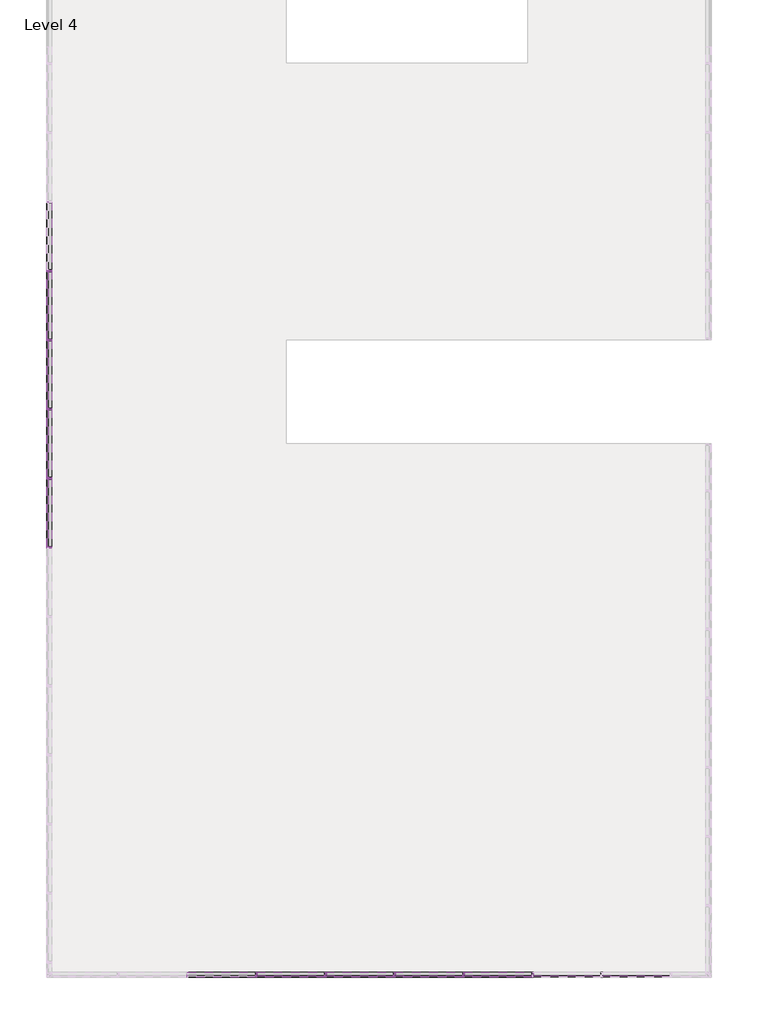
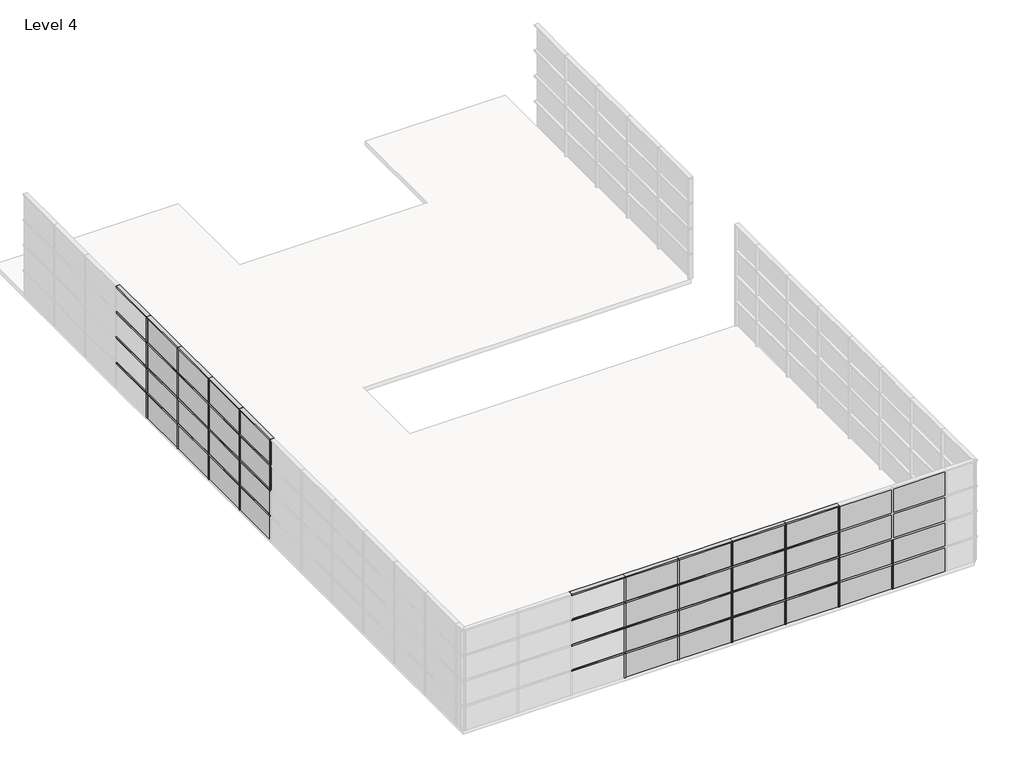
# One storey, part 2 of 5: 80 members, 40 plates.
"""IFC4 building model written with IfcOpenShell, lengths in millimetres."""

from ifc_helpers import new_model, si_unit, origin, place, context, project, spatial, transform, mapped, element, save
from components import rectangular_mullion_50_x_150mm_a053b0ca, rectangular_mullion_50_x_150mm_3a148f0f, system_panel_glazed_08de6f5f

model = new_model("IFC4")

# Units and contexts
model_context = context("Model", 3, world=origin())
ifc_project = project(units=[si_unit("LENGTHUNIT", "METRE", prefix="MILLI")], contexts=[model_context])

# Site, building, storey
site = spatial("IfcSite", under=ifc_project)
building = spatial("IfcBuilding", under=site)
storey = spatial("IfcBuildingStorey", under=building, Name="Level 4", Elevation=12000.0)

# Members
placement = place(None, origin())
rectangular_mullion_50_x_150mm_shape = rectangular_mullion_50_x_150mm_a053b0ca(model_context)
element("IfcMember", 1, ObjectType="Rectangular Mullion : 50 x 150mm", at=placement, inside=storey, context=model_context, shape_type="MappedRepresentation", body=[
    mapped(rectangular_mullion_50_x_150mm_shape, transform((412.826594, -21988.7417365, 12025.0), x_axis=(1.0, 0.0, 0.0), y_axis=(0.0, -1.0, 0.0), z_axis=(0.0, 0.0, -1.0))),
])
element("IfcMember", 2, ObjectType="Rectangular Mullion : 50 x 150mm", at=placement, inside=storey, context=model_context, shape_type="MappedRepresentation", body=[
    mapped(rectangular_mullion_50_x_150mm_shape, transform((412.826594, -21988.7417365, 13025.0), x_axis=(1.0, 0.0, 0.0), y_axis=(0.0, -1.0, 0.0), z_axis=(0.0, 0.0, -1.0))),
])
element("IfcMember", 3, ObjectType="Rectangular Mullion : 50 x 150mm", at=placement, inside=storey, context=model_context, shape_type="MappedRepresentation", body=[
    mapped(rectangular_mullion_50_x_150mm_shape, transform((412.826594, -21988.7417365, 14025.0), x_axis=(1.0, 0.0, 0.0), y_axis=(0.0, -1.0, 0.0), z_axis=(0.0, 0.0, -1.0))),
])
element("IfcMember", 4, ObjectType="Rectangular Mullion : 50 x 150mm", at=placement, inside=storey, context=model_context, shape_type="MappedRepresentation", body=[
    mapped(rectangular_mullion_50_x_150mm_shape, transform((412.826594, -21988.7417365, 15025.0), x_axis=(1.0, 0.0, 0.0), y_axis=(0.0, -1.0, 0.0), z_axis=(0.0, 0.0, -0.9999999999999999))),
])
element("IfcMember", 5, ObjectType="Rectangular Mullion : 50 x 150mm", at=placement, inside=storey, context=model_context, shape_type="MappedRepresentation", body=[
    mapped(rectangular_mullion_50_x_150mm_shape, transform((2412.826594, -21988.7417365, 12025.0), x_axis=(1.0, 0.0, 0.0), y_axis=(0.0, -1.0, 0.0), z_axis=(0.0, 0.0, -1.0))),
])
element("IfcMember", 6, ObjectType="Rectangular Mullion : 50 x 150mm", at=placement, inside=storey, context=model_context, shape_type="MappedRepresentation", body=[
    mapped(rectangular_mullion_50_x_150mm_shape, transform((2412.826594, -21988.7417365, 13025.0), x_axis=(1.0, 0.0, 0.0), y_axis=(0.0, -1.0, 0.0), z_axis=(0.0, 0.0, -0.9999999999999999))),
])
element("IfcMember", 7, ObjectType="Rectangular Mullion : 50 x 150mm", at=placement, inside=storey, context=model_context, shape_type="MappedRepresentation", body=[
    mapped(rectangular_mullion_50_x_150mm_shape, transform((2412.826594, -21988.7417365, 14025.0), x_axis=(1.0, 0.0, 0.0), y_axis=(0.0, -1.0, 0.0), z_axis=(0.0, 0.0, -1.0))),
])
element("IfcMember", 8, ObjectType="Rectangular Mullion : 50 x 150mm", at=placement, inside=storey, context=model_context, shape_type="MappedRepresentation", body=[
    mapped(rectangular_mullion_50_x_150mm_shape, transform((2412.826594, -21988.7417365, 15025.0), x_axis=(1.0, 0.0, 0.0), y_axis=(0.0, -1.0, 0.0), z_axis=(0.0, 0.0, -1.0))),
])
element("IfcMember", 9, ObjectType="Rectangular Mullion : 50 x 150mm", at=placement, inside=storey, context=model_context, shape_type="MappedRepresentation", body=[
    mapped(rectangular_mullion_50_x_150mm_shape, transform((4412.826594, -21988.7417365, 12025.0), x_axis=(1.0, 0.0, 0.0), y_axis=(0.0, -1.0, 0.0), z_axis=(0.0, 0.0, -1.0))),
])
element("IfcMember", 10, ObjectType="Rectangular Mullion : 50 x 150mm", at=placement, inside=storey, context=model_context, shape_type="MappedRepresentation", body=[
    mapped(rectangular_mullion_50_x_150mm_shape, transform((4412.826594, -21988.7417365, 13025.0), x_axis=(1.0, 0.0, 0.0), y_axis=(0.0, -1.0, 0.0), z_axis=(0.0, 0.0, -0.9999999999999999))),
])
element("IfcMember", 11, ObjectType="Rectangular Mullion : 50 x 150mm", at=placement, inside=storey, context=model_context, shape_type="MappedRepresentation", body=[
    mapped(rectangular_mullion_50_x_150mm_shape, transform((4412.826594, -21988.7417365, 14025.0), x_axis=(1.0, 0.0, 0.0), y_axis=(0.0, -1.0, 0.0), z_axis=(0.0, 0.0, -0.9999999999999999))),
])
element("IfcMember", 12, ObjectType="Rectangular Mullion : 50 x 150mm", at=placement, inside=storey, context=model_context, shape_type="MappedRepresentation", body=[
    mapped(rectangular_mullion_50_x_150mm_shape, transform((4412.826594, -21988.7417365, 15025.0), x_axis=(1.0, 0.0, 0.0), y_axis=(0.0, -1.0, 0.0), z_axis=(0.0, 0.0, -1.0))),
])
element("IfcMember", 13, ObjectType="Rectangular Mullion : 50 x 150mm", at=placement, inside=storey, context=model_context, shape_type="MappedRepresentation", body=[
    mapped(rectangular_mullion_50_x_150mm_shape, transform((6412.826594, -21988.7417365, 12025.0), x_axis=(1.0, 0.0, 0.0), y_axis=(0.0, -1.0, 0.0), z_axis=(0.0, 0.0, -1.0))),
])
element("IfcMember", 14, ObjectType="Rectangular Mullion : 50 x 150mm", at=placement, inside=storey, context=model_context, shape_type="MappedRepresentation", body=[
    mapped(rectangular_mullion_50_x_150mm_shape, transform((6412.826594, -21988.7417365, 13025.0), x_axis=(1.0, 0.0, 0.0), y_axis=(0.0, -1.0, 0.0), z_axis=(0.0, 0.0, -1.0))),
])
element("IfcMember", 15, ObjectType="Rectangular Mullion : 50 x 150mm", at=placement, inside=storey, context=model_context, shape_type="MappedRepresentation", body=[
    mapped(rectangular_mullion_50_x_150mm_shape, transform((6412.826594, -21988.7417365, 14025.0), x_axis=(1.0, 0.0, 0.0), y_axis=(0.0, -1.0, 0.0), z_axis=(0.0, 0.0, -0.9999999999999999))),
])
element("IfcMember", 16, ObjectType="Rectangular Mullion : 50 x 150mm", at=placement, inside=storey, context=model_context, shape_type="MappedRepresentation", body=[
    mapped(rectangular_mullion_50_x_150mm_shape, transform((6412.826594, -21988.7417365, 15025.0), x_axis=(1.0, 0.0, 0.0), y_axis=(0.0, -1.0, 0.0), z_axis=(0.0, 0.0, -1.0))),
])
element("IfcMember", 17, ObjectType="Rectangular Mullion : 50 x 150mm", at=placement, inside=storey, context=model_context, shape_type="MappedRepresentation", body=[
    mapped(rectangular_mullion_50_x_150mm_shape, transform((8412.826594, -21988.7417365, 12025.0), x_axis=(1.0, 0.0, 0.0), y_axis=(0.0, -1.0, 0.0), z_axis=(0.0, 0.0, -1.0))),
])
element("IfcMember", 18, ObjectType="Rectangular Mullion : 50 x 150mm", at=placement, inside=storey, context=model_context, shape_type="MappedRepresentation", body=[
    mapped(rectangular_mullion_50_x_150mm_shape, transform((8412.826594, -21988.7417365, 13025.0), x_axis=(1.0, 0.0, 0.0), y_axis=(0.0, -1.0, 0.0), z_axis=(0.0, 0.0, -1.0))),
])
element("IfcMember", 19, ObjectType="Rectangular Mullion : 50 x 150mm", at=placement, inside=storey, context=model_context, shape_type="MappedRepresentation", body=[
    mapped(rectangular_mullion_50_x_150mm_shape, transform((8412.826594, -21988.7417365, 14025.0), x_axis=(1.0, 0.0, 0.0), y_axis=(0.0, -1.0, 0.0), z_axis=(0.0, 0.0, -0.9999999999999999))),
])
element("IfcMember", 20, ObjectType="Rectangular Mullion : 50 x 150mm", at=placement, inside=storey, context=model_context, shape_type="MappedRepresentation", body=[
    mapped(rectangular_mullion_50_x_150mm_shape, transform((8412.826594, -21988.7417365, 15025.0), x_axis=(1.0, 0.0, 0.0), y_axis=(0.0, -1.0, 0.0), z_axis=(0.0, 0.0, -1.0))),
])
element("IfcMember", 21, ObjectType="Rectangular Mullion : 50 x 150mm", at=placement, inside=storey, context=model_context, shape_type="MappedRepresentation", body=[
    mapped(rectangular_mullion_50_x_150mm_shape, transform((10412.826594, -21988.7417365, 12025.0), x_axis=(1.0, 0.0, 0.0), y_axis=(0.0, -1.0, 0.0), z_axis=(0.0, 0.0, -1.0))),
])
element("IfcMember", 22, ObjectType="Rectangular Mullion : 50 x 150mm", at=placement, inside=storey, context=model_context, shape_type="MappedRepresentation", body=[
    mapped(rectangular_mullion_50_x_150mm_shape, transform((10412.826594, -21988.7417365, 13025.0), x_axis=(1.0, 0.0, 0.0), y_axis=(0.0, -1.0, 0.0), z_axis=(0.0, 0.0, -1.0))),
])
element("IfcMember", 23, ObjectType="Rectangular Mullion : 50 x 150mm", at=placement, inside=storey, context=model_context, shape_type="MappedRepresentation", body=[
    mapped(rectangular_mullion_50_x_150mm_shape, transform((-5587.173406, -3624.0160434, 12025.0), x_axis=(0.0, -1.0, 0.0), y_axis=(-1.0, 0.0, 0.0), z_axis=(0.0, 0.0, -1.0))),
])
element("IfcMember", 24, ObjectType="Rectangular Mullion : 50 x 150mm", at=placement, inside=storey, context=model_context, shape_type="MappedRepresentation", body=[
    mapped(rectangular_mullion_50_x_150mm_shape, transform((-5587.173406, -3624.0160434, 13025.0), x_axis=(0.0, -1.0, 0.0), y_axis=(-1.0, 0.0, 0.0), z_axis=(0.0, 0.0, -0.9999999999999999))),
])
element("IfcMember", 25, ObjectType="Rectangular Mullion : 50 x 150mm", at=placement, inside=storey, context=model_context, shape_type="MappedRepresentation", body=[
    mapped(rectangular_mullion_50_x_150mm_shape, transform((-5587.173406, -3624.0160434, 14025.0), x_axis=(0.0, -1.0, 0.0), y_axis=(-1.0, 0.0, 0.0), z_axis=(0.0, 0.0, -1.0))),
])
element("IfcMember", 26, ObjectType="Rectangular Mullion : 50 x 150mm", at=placement, inside=storey, context=model_context, shape_type="MappedRepresentation", body=[
    mapped(rectangular_mullion_50_x_150mm_shape, transform((-5587.173406, -3624.0160434, 15025.0), x_axis=(0.0, -1.0, 0.0), y_axis=(-1.0, 0.0, 0.0), z_axis=(0.0, 0.0, -1.0))),
])
element("IfcMember", 27, ObjectType="Rectangular Mullion : 50 x 150mm", at=placement, inside=storey, context=model_context, shape_type="MappedRepresentation", body=[
    mapped(rectangular_mullion_50_x_150mm_shape, transform((-5587.173406, -5624.0160434, 12025.0), x_axis=(0.0, -1.0, 0.0), y_axis=(-1.0, 0.0, 0.0), z_axis=(0.0, 0.0, -1.0))),
])
element("IfcMember", 28, ObjectType="Rectangular Mullion : 50 x 150mm", at=placement, inside=storey, context=model_context, shape_type="MappedRepresentation", body=[
    mapped(rectangular_mullion_50_x_150mm_shape, transform((-5587.173406, -5624.0160434, 13025.0), x_axis=(0.0, -1.0, 0.0), y_axis=(-1.0, 0.0, 0.0), z_axis=(0.0, 0.0, -0.9999999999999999))),
])
element("IfcMember", 29, ObjectType="Rectangular Mullion : 50 x 150mm", at=placement, inside=storey, context=model_context, shape_type="MappedRepresentation", body=[
    mapped(rectangular_mullion_50_x_150mm_shape, transform((-5587.173406, -5624.0160434, 14025.0), x_axis=(0.0, -1.0, 0.0), y_axis=(-1.0, 0.0, 0.0), z_axis=(0.0, 0.0, -1.0))),
])
element("IfcMember", 30, ObjectType="Rectangular Mullion : 50 x 150mm", at=placement, inside=storey, context=model_context, shape_type="MappedRepresentation", body=[
    mapped(rectangular_mullion_50_x_150mm_shape, transform((-5587.173406, -5624.0160434, 15025.0), x_axis=(0.0, -1.0, 0.0), y_axis=(-1.0, 0.0, 0.0), z_axis=(0.0, 0.0, -1.0))),
])
element("IfcMember", 31, ObjectType="Rectangular Mullion : 50 x 150mm", at=placement, inside=storey, context=model_context, shape_type="MappedRepresentation", body=[
    mapped(rectangular_mullion_50_x_150mm_shape, transform((-5587.173406, -7624.0160434, 12025.0), x_axis=(0.0, -1.0, 0.0), y_axis=(-1.0, 0.0, 0.0), z_axis=(0.0, 0.0, -1.0))),
])
element("IfcMember", 32, ObjectType="Rectangular Mullion : 50 x 150mm", at=placement, inside=storey, context=model_context, shape_type="MappedRepresentation", body=[
    mapped(rectangular_mullion_50_x_150mm_shape, transform((-5587.173406, -7624.0160434, 13025.0), x_axis=(0.0, -1.0, 0.0), y_axis=(-1.0, 0.0, 0.0), z_axis=(0.0, 0.0, -1.0))),
])
element("IfcMember", 33, ObjectType="Rectangular Mullion : 50 x 150mm", at=placement, inside=storey, context=model_context, shape_type="MappedRepresentation", body=[
    mapped(rectangular_mullion_50_x_150mm_shape, transform((-5587.173406, -7624.0160434, 14025.0), x_axis=(0.0, -1.0, 0.0), y_axis=(-1.0, 0.0, 0.0), z_axis=(0.0, 0.0, -1.0))),
])
element("IfcMember", 34, ObjectType="Rectangular Mullion : 50 x 150mm", at=placement, inside=storey, context=model_context, shape_type="MappedRepresentation", body=[
    mapped(rectangular_mullion_50_x_150mm_shape, transform((-5587.173406, -7624.0160434, 15025.0), x_axis=(0.0, -1.0, 0.0), y_axis=(-1.0, 0.0, 0.0), z_axis=(0.0, 0.0, -1.0))),
])
element("IfcMember", 35, ObjectType="Rectangular Mullion : 50 x 150mm", at=placement, inside=storey, context=model_context, shape_type="MappedRepresentation", body=[
    mapped(rectangular_mullion_50_x_150mm_shape, transform((-5587.173406, -1624.0160434, 12025.0), x_axis=(0.0, -1.0, 0.0), y_axis=(-1.0, 0.0, 0.0), z_axis=(0.0, 0.0, -1.0))),
])
element("IfcMember", 36, ObjectType="Rectangular Mullion : 50 x 150mm", at=placement, inside=storey, context=model_context, shape_type="MappedRepresentation", body=[
    mapped(rectangular_mullion_50_x_150mm_shape, transform((-5587.173406, -1624.0160434, 13025.0), x_axis=(0.0, -1.0, 0.0), y_axis=(-1.0, 0.0, 0.0), z_axis=(0.0, 0.0, -0.9999999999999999))),
])
element("IfcMember", 37, ObjectType="Rectangular Mullion : 50 x 150mm", at=placement, inside=storey, context=model_context, shape_type="MappedRepresentation", body=[
    mapped(rectangular_mullion_50_x_150mm_shape, transform((-5587.173406, -1624.0160434, 14025.0), x_axis=(0.0, -1.0, 0.0), y_axis=(-1.0, 0.0, 0.0), z_axis=(0.0, 0.0, -1.0))),
])
element("IfcMember", 38, ObjectType="Rectangular Mullion : 50 x 150mm", at=placement, inside=storey, context=model_context, shape_type="MappedRepresentation", body=[
    mapped(rectangular_mullion_50_x_150mm_shape, transform((-5587.173406, -1624.0160434, 15025.0), x_axis=(0.0, -1.0, 0.0), y_axis=(-1.0, 0.0, 0.0), z_axis=(0.0, 0.0, -1.0))),
])
element("IfcMember", 39, ObjectType="Rectangular Mullion : 50 x 150mm", at=placement, inside=storey, context=model_context, shape_type="MappedRepresentation", body=[
    mapped(rectangular_mullion_50_x_150mm_shape, transform((-5587.173406, -9624.0160434, 14025.0), x_axis=(0.0, -1.0, 0.0), y_axis=(-1.0, 0.0, 0.0), z_axis=(0.0, 0.0, -1.0))),
])
element("IfcMember", 40, ObjectType="Rectangular Mullion : 50 x 150mm", at=placement, inside=storey, context=model_context, shape_type="MappedRepresentation", body=[
    mapped(rectangular_mullion_50_x_150mm_shape, transform((-5587.173406, -9624.0160434, 15025.0), x_axis=(0.0, -1.0, 0.0), y_axis=(-1.0, 0.0, 0.0), z_axis=(0.0, 0.0, -1.0))),
])
rectangular_mullion_50_x_150mm_2_shape = rectangular_mullion_50_x_150mm_3a148f0f(model_context)
element("IfcMember", 41, ObjectType="Rectangular Mullion : 50 x 150mm", at=placement, inside=storey, context=model_context, shape_type="MappedRepresentation", body=[
    mapped(rectangular_mullion_50_x_150mm_2_shape, transform((412.826594, -21988.7417365, 13000.0), x_axis=(0.0, 0.0, 1.0), y_axis=(0.0, -1.0, 0.0), z_axis=(1.0, 0.0, 0.0))),
])
element("IfcMember", 42, ObjectType="Rectangular Mullion : 50 x 150mm", at=placement, inside=storey, context=model_context, shape_type="MappedRepresentation", body=[
    mapped(rectangular_mullion_50_x_150mm_2_shape, transform((2412.826594, -21988.7417365, 13000.0), x_axis=(0.0, 0.0, 1.0), y_axis=(0.0, -1.0, 0.0), z_axis=(1.0, 0.0, 0.0))),
])
element("IfcMember", 43, ObjectType="Rectangular Mullion : 50 x 150mm", at=placement, inside=storey, context=model_context, shape_type="MappedRepresentation", body=[
    mapped(rectangular_mullion_50_x_150mm_2_shape, transform((4412.826594, -21988.7417365, 13000.0), x_axis=(0.0, 0.0, 1.0), y_axis=(0.0, -1.0, 0.0), z_axis=(0.9999999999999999, 0.0, 0.0))),
])
element("IfcMember", 44, ObjectType="Rectangular Mullion : 50 x 150mm", at=placement, inside=storey, context=model_context, shape_type="MappedRepresentation", body=[
    mapped(rectangular_mullion_50_x_150mm_2_shape, transform((6412.826594, -21988.7417365, 13000.0), x_axis=(0.0, 0.0, 1.0), y_axis=(0.0, -1.0, 0.0), z_axis=(1.0, 0.0, 0.0))),
])
element("IfcMember", 45, ObjectType="Rectangular Mullion : 50 x 150mm", at=placement, inside=storey, context=model_context, shape_type="MappedRepresentation", body=[
    mapped(rectangular_mullion_50_x_150mm_2_shape, transform((8412.826594, -21988.7417365, 13000.0), x_axis=(0.0, 0.0, 1.0), y_axis=(0.0, -1.0, 0.0), z_axis=(1.0, 0.0, 0.0))),
])
element("IfcMember", 46, ObjectType="Rectangular Mullion : 50 x 150mm", at=placement, inside=storey, context=model_context, shape_type="MappedRepresentation", body=[
    mapped(rectangular_mullion_50_x_150mm_2_shape, transform((412.826594, -21988.7417365, 14000.0), x_axis=(0.0, 0.0, 1.0), y_axis=(0.0, -1.0, 0.0), z_axis=(1.0, 0.0, 0.0))),
])
element("IfcMember", 47, ObjectType="Rectangular Mullion : 50 x 150mm", at=placement, inside=storey, context=model_context, shape_type="MappedRepresentation", body=[
    mapped(rectangular_mullion_50_x_150mm_2_shape, transform((2412.826594, -21988.7417365, 14000.0), x_axis=(0.0, 0.0, 1.0), y_axis=(0.0, -1.0, 0.0), z_axis=(1.0, 0.0, 0.0))),
])
element("IfcMember", 48, ObjectType="Rectangular Mullion : 50 x 150mm", at=placement, inside=storey, context=model_context, shape_type="MappedRepresentation", body=[
    mapped(rectangular_mullion_50_x_150mm_2_shape, transform((4412.826594, -21988.7417365, 14000.0), x_axis=(0.0, 0.0, 1.0), y_axis=(0.0, -1.0, 0.0), z_axis=(1.0, 0.0, 0.0))),
])
element("IfcMember", 49, ObjectType="Rectangular Mullion : 50 x 150mm", at=placement, inside=storey, context=model_context, shape_type="MappedRepresentation", body=[
    mapped(rectangular_mullion_50_x_150mm_2_shape, transform((6412.826594, -21988.7417365, 14000.0), x_axis=(0.0, 0.0, 1.0), y_axis=(0.0, -1.0, 0.0), z_axis=(1.0, 0.0, 0.0))),
])
element("IfcMember", 50, ObjectType="Rectangular Mullion : 50 x 150mm", at=placement, inside=storey, context=model_context, shape_type="MappedRepresentation", body=[
    mapped(rectangular_mullion_50_x_150mm_2_shape, transform((8412.826594, -21988.7417365, 14000.0), x_axis=(0.0, 0.0, 1.0), y_axis=(0.0, -1.0, 0.0), z_axis=(1.0, 0.0, 0.0))),
])
element("IfcMember", 51, ObjectType="Rectangular Mullion : 50 x 150mm", at=placement, inside=storey, context=model_context, shape_type="MappedRepresentation", body=[
    mapped(rectangular_mullion_50_x_150mm_2_shape, transform((412.826594, -21988.7417365, 15000.0), x_axis=(0.0, 0.0, 1.0), y_axis=(0.0, -1.0, 0.0), z_axis=(1.0, 0.0, 0.0))),
])
element("IfcMember", 52, ObjectType="Rectangular Mullion : 50 x 150mm", at=placement, inside=storey, context=model_context, shape_type="MappedRepresentation", body=[
    mapped(rectangular_mullion_50_x_150mm_2_shape, transform((2412.826594, -21988.7417365, 15000.0), x_axis=(0.0, 0.0, 1.0), y_axis=(0.0, -1.0, 0.0), z_axis=(1.0, 0.0, 0.0))),
])
element("IfcMember", 53, ObjectType="Rectangular Mullion : 50 x 150mm", at=placement, inside=storey, context=model_context, shape_type="MappedRepresentation", body=[
    mapped(rectangular_mullion_50_x_150mm_2_shape, transform((4412.826594, -21988.7417365, 15000.0), x_axis=(0.0, 0.0, 1.0), y_axis=(0.0, -1.0, 0.0), z_axis=(1.0, 0.0, 0.0))),
])
element("IfcMember", 54, ObjectType="Rectangular Mullion : 50 x 150mm", at=placement, inside=storey, context=model_context, shape_type="MappedRepresentation", body=[
    mapped(rectangular_mullion_50_x_150mm_2_shape, transform((6412.826594, -21988.7417365, 15000.0), x_axis=(0.0, 0.0, 1.0), y_axis=(0.0, -1.0, 0.0), z_axis=(1.0, 0.0, 0.0))),
])
element("IfcMember", 55, ObjectType="Rectangular Mullion : 50 x 150mm", at=placement, inside=storey, context=model_context, shape_type="MappedRepresentation", body=[
    mapped(rectangular_mullion_50_x_150mm_2_shape, transform((8412.826594, -21988.7417365, 15000.0), x_axis=(0.0, 0.0, 1.0), y_axis=(0.0, -1.0, 0.0), z_axis=(1.0, 0.0, 0.0))),
])
element("IfcMember", 56, ObjectType="Rectangular Mullion : 50 x 150mm", at=placement, inside=storey, context=model_context, shape_type="MappedRepresentation", body=[
    mapped(rectangular_mullion_50_x_150mm_2_shape, transform((412.826594, -21988.7417365, 16000.0), x_axis=(0.0, 0.0, 1.0), y_axis=(0.0, -1.0, 0.0), z_axis=(1.0, 0.0, 0.0))),
])
element("IfcMember", 57, ObjectType="Rectangular Mullion : 50 x 150mm", at=placement, inside=storey, context=model_context, shape_type="MappedRepresentation", body=[
    mapped(rectangular_mullion_50_x_150mm_2_shape, transform((2412.826594, -21988.7417365, 16000.0), x_axis=(0.0, 0.0, 1.0), y_axis=(0.0, -1.0, 0.0), z_axis=(1.0, 0.0, 0.0))),
])
element("IfcMember", 58, ObjectType="Rectangular Mullion : 50 x 150mm", at=placement, inside=storey, context=model_context, shape_type="MappedRepresentation", body=[
    mapped(rectangular_mullion_50_x_150mm_2_shape, transform((4412.826594, -21988.7417365, 16000.0), x_axis=(0.0, 0.0, 1.0), y_axis=(0.0, -1.0, 0.0), z_axis=(1.0, 0.0, 0.0))),
])
element("IfcMember", 59, ObjectType="Rectangular Mullion : 50 x 150mm", at=placement, inside=storey, context=model_context, shape_type="MappedRepresentation", body=[
    mapped(rectangular_mullion_50_x_150mm_2_shape, transform((6412.826594, -21988.7417365, 16000.0), x_axis=(0.0, 0.0, 1.0), y_axis=(0.0, -1.0, 0.0), z_axis=(1.0, 0.0, 0.0))),
])
element("IfcMember", 60, ObjectType="Rectangular Mullion : 50 x 150mm", at=placement, inside=storey, context=model_context, shape_type="MappedRepresentation", body=[
    mapped(rectangular_mullion_50_x_150mm_2_shape, transform((8412.826594, -21988.7417365, 16000.0), x_axis=(0.0, 0.0, 1.0), y_axis=(0.0, -1.0, 0.0), z_axis=(1.0, 0.0, 0.0))),
])
element("IfcMember", 61, ObjectType="Rectangular Mullion : 50 x 150mm", at=placement, inside=storey, context=model_context, shape_type="MappedRepresentation", body=[
    mapped(rectangular_mullion_50_x_150mm_2_shape, transform((-5587.173406, -1624.0160434, 13000.0), x_axis=(0.0, 0.0, 1.0), y_axis=(-1.0, 0.0, 0.0), z_axis=(0.0, -1.0, 0.0))),
])
element("IfcMember", 62, ObjectType="Rectangular Mullion : 50 x 150mm", at=placement, inside=storey, context=model_context, shape_type="MappedRepresentation", body=[
    mapped(rectangular_mullion_50_x_150mm_2_shape, transform((-5587.173406, -3624.0160434, 13000.0), x_axis=(0.0, 0.0, 1.0), y_axis=(-1.0, 0.0, 0.0), z_axis=(0.0, -1.0, 0.0))),
])
element("IfcMember", 63, ObjectType="Rectangular Mullion : 50 x 150mm", at=placement, inside=storey, context=model_context, shape_type="MappedRepresentation", body=[
    mapped(rectangular_mullion_50_x_150mm_2_shape, transform((-5587.173406, -5624.0160434, 13000.0), x_axis=(0.0, 0.0, 1.0), y_axis=(-1.0, 0.0, 0.0), z_axis=(0.0, -1.0, 0.0))),
])
element("IfcMember", 64, ObjectType="Rectangular Mullion : 50 x 150mm", at=placement, inside=storey, context=model_context, shape_type="MappedRepresentation", body=[
    mapped(rectangular_mullion_50_x_150mm_2_shape, transform((-5587.173406, -7624.0160434, 13000.0), x_axis=(0.0, 0.0, 1.0), y_axis=(-1.0, 0.0, 0.0), z_axis=(0.0, -1.0, 0.0))),
])
element("IfcMember", 65, ObjectType="Rectangular Mullion : 50 x 150mm", at=placement, inside=storey, context=model_context, shape_type="MappedRepresentation", body=[
    mapped(rectangular_mullion_50_x_150mm_2_shape, transform((-5587.173406, -9624.0160434, 13000.0), x_axis=(0.0, 0.0, 1.0), y_axis=(-1.0, 0.0, 0.0), z_axis=(0.0, -1.0, 0.0))),
])
element("IfcMember", 66, ObjectType="Rectangular Mullion : 50 x 150mm", at=placement, inside=storey, context=model_context, shape_type="MappedRepresentation", body=[
    mapped(rectangular_mullion_50_x_150mm_2_shape, transform((-5587.173406, -1624.0160434, 14000.0), x_axis=(0.0, 0.0, 1.0), y_axis=(-1.0, 0.0, 0.0), z_axis=(0.0, -1.0, 0.0))),
])
element("IfcMember", 67, ObjectType="Rectangular Mullion : 50 x 150mm", at=placement, inside=storey, context=model_context, shape_type="MappedRepresentation", body=[
    mapped(rectangular_mullion_50_x_150mm_2_shape, transform((-5587.173406, -3624.0160434, 14000.0), x_axis=(0.0, 0.0, 1.0), y_axis=(-1.0, 0.0, 0.0), z_axis=(0.0, -1.0, 0.0))),
])
element("IfcMember", 68, ObjectType="Rectangular Mullion : 50 x 150mm", at=placement, inside=storey, context=model_context, shape_type="MappedRepresentation", body=[
    mapped(rectangular_mullion_50_x_150mm_2_shape, transform((-5587.173406, -5624.0160434, 14000.0), x_axis=(0.0, 0.0, 1.0), y_axis=(-1.0, 0.0, 0.0), z_axis=(0.0, -1.0, 0.0))),
])
element("IfcMember", 69, ObjectType="Rectangular Mullion : 50 x 150mm", at=placement, inside=storey, context=model_context, shape_type="MappedRepresentation", body=[
    mapped(rectangular_mullion_50_x_150mm_2_shape, transform((-5587.173406, -7624.0160434, 14000.0), x_axis=(0.0, 0.0, 1.0), y_axis=(-1.0, 0.0, 0.0), z_axis=(0.0, -1.0, 0.0))),
])
element("IfcMember", 70, ObjectType="Rectangular Mullion : 50 x 150mm", at=placement, inside=storey, context=model_context, shape_type="MappedRepresentation", body=[
    mapped(rectangular_mullion_50_x_150mm_2_shape, transform((-5587.173406, -9624.0160434, 14000.0), x_axis=(0.0, 0.0, 1.0), y_axis=(-1.0, 0.0, 0.0), z_axis=(0.0, -1.0, 0.0))),
])
element("IfcMember", 71, ObjectType="Rectangular Mullion : 50 x 150mm", at=placement, inside=storey, context=model_context, shape_type="MappedRepresentation", body=[
    mapped(rectangular_mullion_50_x_150mm_2_shape, transform((-5587.173406, -1624.0160434, 15000.0), x_axis=(0.0, 0.0, 1.0), y_axis=(-1.0, 0.0, 0.0), z_axis=(0.0, -1.0, 0.0))),
])
element("IfcMember", 72, ObjectType="Rectangular Mullion : 50 x 150mm", at=placement, inside=storey, context=model_context, shape_type="MappedRepresentation", body=[
    mapped(rectangular_mullion_50_x_150mm_2_shape, transform((-5587.173406, -3624.0160434, 15000.0), x_axis=(0.0, 0.0, 1.0), y_axis=(-1.0, 0.0, 0.0), z_axis=(0.0, -0.9999999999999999, 0.0))),
])
element("IfcMember", 73, ObjectType="Rectangular Mullion : 50 x 150mm", at=placement, inside=storey, context=model_context, shape_type="MappedRepresentation", body=[
    mapped(rectangular_mullion_50_x_150mm_2_shape, transform((-5587.173406, -5624.0160434, 15000.0), x_axis=(0.0, 0.0, 1.0), y_axis=(-1.0, 0.0, 0.0), z_axis=(0.0, -1.0, 0.0))),
])
element("IfcMember", 74, ObjectType="Rectangular Mullion : 50 x 150mm", at=placement, inside=storey, context=model_context, shape_type="MappedRepresentation", body=[
    mapped(rectangular_mullion_50_x_150mm_2_shape, transform((-5587.173406, -7624.0160434, 15000.0), x_axis=(0.0, 0.0, 1.0), y_axis=(-1.0, 0.0, 0.0), z_axis=(0.0, -1.0, 0.0))),
])
element("IfcMember", 75, ObjectType="Rectangular Mullion : 50 x 150mm", at=placement, inside=storey, context=model_context, shape_type="MappedRepresentation", body=[
    mapped(rectangular_mullion_50_x_150mm_2_shape, transform((-5587.173406, -9624.0160434, 15000.0), x_axis=(0.0, 0.0, 1.0), y_axis=(-1.0, 0.0, 0.0), z_axis=(0.0, -1.0, 0.0))),
])
element("IfcMember", 76, ObjectType="Rectangular Mullion : 50 x 150mm", at=placement, inside=storey, context=model_context, shape_type="MappedRepresentation", body=[
    mapped(rectangular_mullion_50_x_150mm_2_shape, transform((-5587.173406, -1624.0160434, 16000.0), x_axis=(0.0, 0.0, 1.0), y_axis=(-1.0, 0.0, 0.0), z_axis=(0.0, -1.0, 0.0))),
])
element("IfcMember", 77, ObjectType="Rectangular Mullion : 50 x 150mm", at=placement, inside=storey, context=model_context, shape_type="MappedRepresentation", body=[
    mapped(rectangular_mullion_50_x_150mm_2_shape, transform((-5587.173406, -3624.0160434, 16000.0), x_axis=(0.0, 0.0, 1.0), y_axis=(-1.0, 0.0, 0.0), z_axis=(0.0, -0.9999999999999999, 0.0))),
])
element("IfcMember", 78, ObjectType="Rectangular Mullion : 50 x 150mm", at=placement, inside=storey, context=model_context, shape_type="MappedRepresentation", body=[
    mapped(rectangular_mullion_50_x_150mm_2_shape, transform((-5587.173406, -5624.0160434, 16000.0), x_axis=(0.0, 0.0, 1.0), y_axis=(-1.0, 0.0, 0.0), z_axis=(0.0, -1.0, 0.0))),
])
element("IfcMember", 79, ObjectType="Rectangular Mullion : 50 x 150mm", at=placement, inside=storey, context=model_context, shape_type="MappedRepresentation", body=[
    mapped(rectangular_mullion_50_x_150mm_2_shape, transform((-5587.173406, -7624.0160434, 16000.0), x_axis=(0.0, 0.0, 1.0), y_axis=(-1.0, 0.0, 0.0), z_axis=(0.0, -1.0, 0.0))),
])
element("IfcMember", 80, ObjectType="Rectangular Mullion : 50 x 150mm", at=placement, inside=storey, context=model_context, shape_type="MappedRepresentation", body=[
    mapped(rectangular_mullion_50_x_150mm_2_shape, transform((-5587.173406, -9624.0160434, 16000.0), x_axis=(0.0, 0.0, 1.0), y_axis=(-1.0, 0.0, 0.0), z_axis=(0.0, -1.0, 0.0))),
])

# Plates
system_panel_glazed_shape = system_panel_glazed_08de6f5f(model_context)
element("IfcPlate", 81, ObjectType="System Panel : Glazed", at=placement, inside=storey, context=model_context, shape_type="MappedRepresentation", body=[
    mapped(system_panel_glazed_shape, transform((-5587.173406, -1649.0160434, 12500.0), x_axis=(0.0, 0.0, 1.0), y_axis=(-1.0, 0.0, 0.0), z_axis=(0.0, -1.0, 0.0))),
])
element("IfcPlate", 82, ObjectType="System Panel : Glazed", at=placement, inside=storey, context=model_context, shape_type="MappedRepresentation", body=[
    mapped(system_panel_glazed_shape, transform((-5587.173406, -3649.0160434, 12500.0), x_axis=(0.0, 0.0, 1.0), y_axis=(-1.0, 0.0, 0.0), z_axis=(0.0, -1.0, 0.0))),
])
element("IfcPlate", 83, ObjectType="System Panel : Glazed", at=placement, inside=storey, context=model_context, shape_type="MappedRepresentation", body=[
    mapped(system_panel_glazed_shape, transform((-5587.173406, -5649.0160434, 12500.0), x_axis=(0.0, 0.0, 1.0), y_axis=(-1.0, 0.0, 0.0), z_axis=(0.0, -1.0, 0.0))),
])
element("IfcPlate", 84, ObjectType="System Panel : Glazed", at=placement, inside=storey, context=model_context, shape_type="MappedRepresentation", body=[
    mapped(system_panel_glazed_shape, transform((-5587.173406, -7649.0160434, 12500.0), x_axis=(0.0, 0.0, 1.0), y_axis=(-1.0, 0.0, 0.0), z_axis=(0.0, -1.0, 0.0))),
])
element("IfcPlate", 85, ObjectType="System Panel : Glazed", at=placement, inside=storey, context=model_context, shape_type="MappedRepresentation", body=[
    mapped(system_panel_glazed_shape, transform((-5587.173406, -1649.0160434, 13500.0), x_axis=(0.0, 0.0, 1.0), y_axis=(-1.0, 0.0, 0.0), z_axis=(0.0, -1.0, 0.0))),
])
element("IfcPlate", 86, ObjectType="System Panel : Glazed", at=placement, inside=storey, context=model_context, shape_type="MappedRepresentation", body=[
    mapped(system_panel_glazed_shape, transform((-5587.173406, -3649.0160434, 13500.0), x_axis=(0.0, 0.0, 1.0), y_axis=(-1.0, 0.0, 0.0), z_axis=(0.0, -1.0, 0.0))),
])
element("IfcPlate", 87, ObjectType="System Panel : Glazed", at=placement, inside=storey, context=model_context, shape_type="MappedRepresentation", body=[
    mapped(system_panel_glazed_shape, transform((-5587.173406, -5649.0160434, 13500.0), x_axis=(0.0, 0.0, 1.0), y_axis=(-1.0, 0.0, 0.0), z_axis=(0.0, -1.0, 0.0))),
])
element("IfcPlate", 88, ObjectType="System Panel : Glazed", at=placement, inside=storey, context=model_context, shape_type="MappedRepresentation", body=[
    mapped(system_panel_glazed_shape, transform((-5587.173406, -7649.0160434, 13500.0), x_axis=(0.0, 0.0, 1.0), y_axis=(-1.0, 0.0, 0.0), z_axis=(0.0, -1.0, 0.0))),
])
element("IfcPlate", 89, ObjectType="System Panel : Glazed", at=placement, inside=storey, context=model_context, shape_type="MappedRepresentation", body=[
    mapped(system_panel_glazed_shape, transform((-5587.173406, -1649.0160434, 14500.0), x_axis=(0.0, 0.0, 1.0), y_axis=(-1.0, 0.0, 0.0), z_axis=(0.0, -1.0, 0.0))),
])
element("IfcPlate", 90, ObjectType="System Panel : Glazed", at=placement, inside=storey, context=model_context, shape_type="MappedRepresentation", body=[
    mapped(system_panel_glazed_shape, transform((-5587.173406, -3649.0160434, 14500.0), x_axis=(0.0, 0.0, 1.0), y_axis=(-1.0, 0.0, 0.0), z_axis=(0.0, -1.0, 0.0))),
])
element("IfcPlate", 91, ObjectType="System Panel : Glazed", at=placement, inside=storey, context=model_context, shape_type="MappedRepresentation", body=[
    mapped(system_panel_glazed_shape, transform((-5587.173406, -5649.0160434, 14500.0), x_axis=(0.0, 0.0, 1.0), y_axis=(-1.0, 0.0, 0.0), z_axis=(0.0, -1.0, 0.0))),
])
element("IfcPlate", 92, ObjectType="System Panel : Glazed", at=placement, inside=storey, context=model_context, shape_type="MappedRepresentation", body=[
    mapped(system_panel_glazed_shape, transform((-5587.173406, -7649.0160434, 14500.0), x_axis=(0.0, 0.0, 1.0), y_axis=(-1.0, 0.0, 0.0), z_axis=(0.0, -1.0, 0.0))),
])
element("IfcPlate", 93, ObjectType="System Panel : Glazed", at=placement, inside=storey, context=model_context, shape_type="MappedRepresentation", body=[
    mapped(system_panel_glazed_shape, transform((-5587.173406, -1649.0160434, 15500.0), x_axis=(0.0, 0.0, 1.0), y_axis=(-1.0, 0.0, 0.0), z_axis=(0.0, -1.0, 0.0))),
])
element("IfcPlate", 94, ObjectType="System Panel : Glazed", at=placement, inside=storey, context=model_context, shape_type="MappedRepresentation", body=[
    mapped(system_panel_glazed_shape, transform((-5587.173406, -3649.0160434, 15500.0), x_axis=(0.0, 0.0, 1.0), y_axis=(-1.0, 0.0, 0.0), z_axis=(0.0, -1.0, 0.0))),
])
element("IfcPlate", 95, ObjectType="System Panel : Glazed", at=placement, inside=storey, context=model_context, shape_type="MappedRepresentation", body=[
    mapped(system_panel_glazed_shape, transform((-5587.173406, -5649.0160434, 15500.0), x_axis=(0.0, 0.0, 1.0), y_axis=(-1.0, 0.0, 0.0), z_axis=(0.0, -1.0, 0.0))),
])
element("IfcPlate", 96, ObjectType="System Panel : Glazed", at=placement, inside=storey, context=model_context, shape_type="MappedRepresentation", body=[
    mapped(system_panel_glazed_shape, transform((-5587.173406, -7649.0160434, 15500.0), x_axis=(0.0, 0.0, 1.0), y_axis=(-1.0, 0.0, 0.0), z_axis=(0.0, -1.0, 0.0))),
])
element("IfcPlate", 97, ObjectType="System Panel : Glazed", at=placement, inside=storey, context=model_context, shape_type="MappedRepresentation", body=[
    mapped(system_panel_glazed_shape, transform((437.826594, -21988.7417365, 12500.0), x_axis=(0.0, 0.0, 1.0), y_axis=(0.0, -1.0, 0.0), z_axis=(1.0, 0.0, 0.0))),
])
element("IfcPlate", 98, ObjectType="System Panel : Glazed", at=placement, inside=storey, context=model_context, shape_type="MappedRepresentation", body=[
    mapped(system_panel_glazed_shape, transform((2437.826594, -21988.7417365, 12500.0), x_axis=(0.0, 0.0, 1.0), y_axis=(0.0, -1.0, 0.0), z_axis=(1.0, 0.0, 0.0))),
])
element("IfcPlate", 99, ObjectType="System Panel : Glazed", at=placement, inside=storey, context=model_context, shape_type="MappedRepresentation", body=[
    mapped(system_panel_glazed_shape, transform((4437.826594, -21988.7417365, 12500.0), x_axis=(0.0, 0.0, 1.0), y_axis=(0.0, -1.0, 0.0), z_axis=(1.0, 0.0, 0.0))),
])
element("IfcPlate", 100, ObjectType="System Panel : Glazed", at=placement, inside=storey, context=model_context, shape_type="MappedRepresentation", body=[
    mapped(system_panel_glazed_shape, transform((6437.826594, -21988.7417365, 12500.0), x_axis=(0.0, 0.0, 1.0), y_axis=(0.0, -1.0, 0.0), z_axis=(1.0, 0.0, 0.0))),
])
element("IfcPlate", 101, ObjectType="System Panel : Glazed", at=placement, inside=storey, context=model_context, shape_type="MappedRepresentation", body=[
    mapped(system_panel_glazed_shape, transform((8437.826594, -21988.7417365, 12500.0), x_axis=(0.0, 0.0, 1.0), y_axis=(0.0, -1.0, 0.0), z_axis=(1.0, 0.0, 0.0))),
])
element("IfcPlate", 102, ObjectType="System Panel : Glazed", at=placement, inside=storey, context=model_context, shape_type="MappedRepresentation", body=[
    mapped(system_panel_glazed_shape, transform((10437.826594, -21988.7417365, 12500.0), x_axis=(0.0, 0.0, 1.0), y_axis=(0.0, -1.0, 0.0), z_axis=(1.0, 0.0, 0.0))),
])
element("IfcPlate", 103, ObjectType="System Panel : Glazed", at=placement, inside=storey, context=model_context, shape_type="MappedRepresentation", body=[
    mapped(system_panel_glazed_shape, transform((437.826594, -21988.7417365, 13500.0), x_axis=(0.0, 0.0, 1.0), y_axis=(0.0, -1.0, 0.0), z_axis=(1.0, 0.0, 0.0))),
])
element("IfcPlate", 104, ObjectType="System Panel : Glazed", at=placement, inside=storey, context=model_context, shape_type="MappedRepresentation", body=[
    mapped(system_panel_glazed_shape, transform((2437.826594, -21988.7417365, 13500.0), x_axis=(0.0, 0.0, 1.0), y_axis=(0.0, -1.0, 0.0), z_axis=(1.0, 0.0, 0.0))),
])
element("IfcPlate", 105, ObjectType="System Panel : Glazed", at=placement, inside=storey, context=model_context, shape_type="MappedRepresentation", body=[
    mapped(system_panel_glazed_shape, transform((4437.826594, -21988.7417365, 13500.0), x_axis=(0.0, 0.0, 1.0), y_axis=(0.0, -1.0, 0.0), z_axis=(1.0, 0.0, 0.0))),
])
element("IfcPlate", 106, ObjectType="System Panel : Glazed", at=placement, inside=storey, context=model_context, shape_type="MappedRepresentation", body=[
    mapped(system_panel_glazed_shape, transform((6437.826594, -21988.7417365, 13500.0), x_axis=(0.0, 0.0, 1.0), y_axis=(0.0, -1.0, 0.0), z_axis=(1.0, 0.0, 0.0))),
])
element("IfcPlate", 107, ObjectType="System Panel : Glazed", at=placement, inside=storey, context=model_context, shape_type="MappedRepresentation", body=[
    mapped(system_panel_glazed_shape, transform((8437.826594, -21988.7417365, 13500.0), x_axis=(0.0, 0.0, 1.0), y_axis=(0.0, -1.0, 0.0), z_axis=(1.0, 0.0, 0.0))),
])
element("IfcPlate", 108, ObjectType="System Panel : Glazed", at=placement, inside=storey, context=model_context, shape_type="MappedRepresentation", body=[
    mapped(system_panel_glazed_shape, transform((10437.826594, -21988.7417365, 13500.0), x_axis=(0.0, 0.0, 1.0), y_axis=(0.0, -1.0, 0.0), z_axis=(1.0, 0.0, 0.0))),
])
element("IfcPlate", 109, ObjectType="System Panel : Glazed", at=placement, inside=storey, context=model_context, shape_type="MappedRepresentation", body=[
    mapped(system_panel_glazed_shape, transform((437.826594, -21988.7417365, 14500.0), x_axis=(0.0, 0.0, 1.0), y_axis=(0.0, -1.0, 0.0), z_axis=(1.0, 0.0, 0.0))),
])
element("IfcPlate", 110, ObjectType="System Panel : Glazed", at=placement, inside=storey, context=model_context, shape_type="MappedRepresentation", body=[
    mapped(system_panel_glazed_shape, transform((2437.826594, -21988.7417365, 14500.0), x_axis=(0.0, 0.0, 1.0), y_axis=(0.0, -1.0, 0.0), z_axis=(1.0, 0.0, 0.0))),
])
element("IfcPlate", 111, ObjectType="System Panel : Glazed", at=placement, inside=storey, context=model_context, shape_type="MappedRepresentation", body=[
    mapped(system_panel_glazed_shape, transform((4437.826594, -21988.7417365, 14500.0), x_axis=(0.0, 0.0, 1.0), y_axis=(0.0, -1.0, 0.0), z_axis=(1.0, 0.0, 0.0))),
])
element("IfcPlate", 112, ObjectType="System Panel : Glazed", at=placement, inside=storey, context=model_context, shape_type="MappedRepresentation", body=[
    mapped(system_panel_glazed_shape, transform((6437.826594, -21988.7417365, 14500.0), x_axis=(0.0, 0.0, 1.0), y_axis=(0.0, -1.0, 0.0), z_axis=(1.0, 0.0, 0.0))),
])
element("IfcPlate", 113, ObjectType="System Panel : Glazed", at=placement, inside=storey, context=model_context, shape_type="MappedRepresentation", body=[
    mapped(system_panel_glazed_shape, transform((8437.826594, -21988.7417365, 14500.0), x_axis=(0.0, 0.0, 1.0), y_axis=(0.0, -1.0, 0.0), z_axis=(1.0, 0.0, 0.0))),
])
element("IfcPlate", 114, ObjectType="System Panel : Glazed", at=placement, inside=storey, context=model_context, shape_type="MappedRepresentation", body=[
    mapped(system_panel_glazed_shape, transform((10437.826594, -21988.7417365, 14500.0), x_axis=(0.0, 0.0, 1.0), y_axis=(0.0, -1.0, 0.0), z_axis=(1.0, 0.0, 0.0))),
])
element("IfcPlate", 115, ObjectType="System Panel : Glazed", at=placement, inside=storey, context=model_context, shape_type="MappedRepresentation", body=[
    mapped(system_panel_glazed_shape, transform((437.826594, -21988.7417365, 15500.0), x_axis=(0.0, 0.0, 1.0), y_axis=(0.0, -1.0, 0.0), z_axis=(1.0, 0.0, 0.0))),
])
element("IfcPlate", 116, ObjectType="System Panel : Glazed", at=placement, inside=storey, context=model_context, shape_type="MappedRepresentation", body=[
    mapped(system_panel_glazed_shape, transform((2437.826594, -21988.7417365, 15500.0), x_axis=(0.0, 0.0, 1.0), y_axis=(0.0, -1.0, 0.0), z_axis=(1.0, 0.0, 0.0))),
])
element("IfcPlate", 117, ObjectType="System Panel : Glazed", at=placement, inside=storey, context=model_context, shape_type="MappedRepresentation", body=[
    mapped(system_panel_glazed_shape, transform((4437.826594, -21988.7417365, 15500.0), x_axis=(0.0, 0.0, 1.0), y_axis=(0.0, -1.0, 0.0), z_axis=(1.0, 0.0, 0.0))),
])
element("IfcPlate", 118, ObjectType="System Panel : Glazed", at=placement, inside=storey, context=model_context, shape_type="MappedRepresentation", body=[
    mapped(system_panel_glazed_shape, transform((6437.826594, -21988.7417365, 15500.0), x_axis=(0.0, 0.0, 1.0), y_axis=(0.0, -1.0, 0.0), z_axis=(1.0, 0.0, 0.0))),
])
element("IfcPlate", 119, ObjectType="System Panel : Glazed", at=placement, inside=storey, context=model_context, shape_type="MappedRepresentation", body=[
    mapped(system_panel_glazed_shape, transform((8437.826594, -21988.7417365, 15500.0), x_axis=(0.0, 0.0, 1.0), y_axis=(0.0, -1.0, 0.0), z_axis=(1.0, 0.0, 0.0))),
])
element("IfcPlate", 120, ObjectType="System Panel : Glazed", at=placement, inside=storey, context=model_context, shape_type="MappedRepresentation", body=[
    mapped(system_panel_glazed_shape, transform((10437.826594, -21988.7417365, 15500.0), x_axis=(0.0, 0.0, 1.0), y_axis=(0.0, -1.0, 0.0), z_axis=(1.0, 0.0, 0.0))),
])

save(model, "model.ifc")
